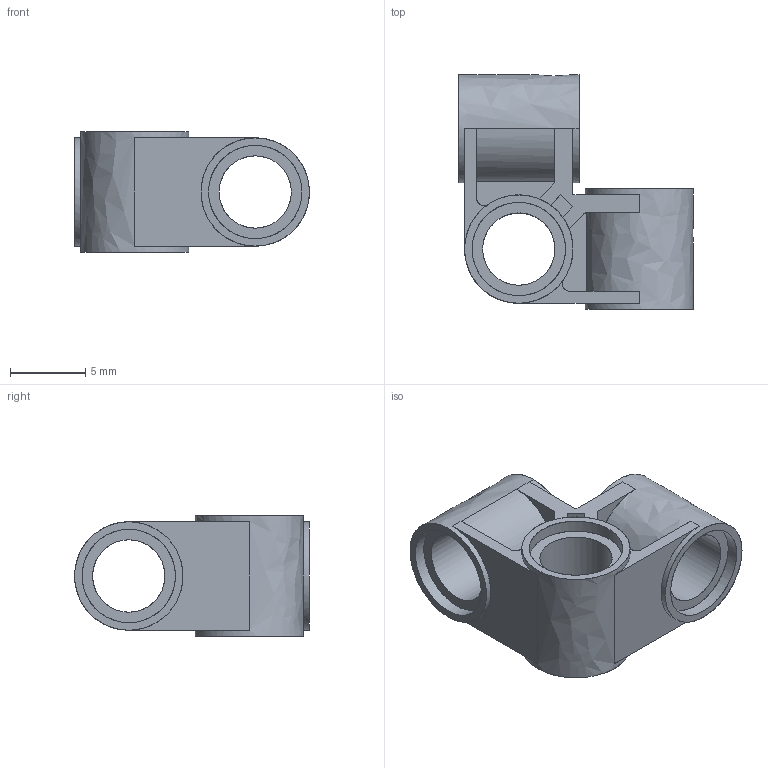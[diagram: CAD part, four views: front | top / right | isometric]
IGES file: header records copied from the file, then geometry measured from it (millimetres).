
Start section: C
Global section: file name: Black_4195022_AVV.iges; native system: By Siemens PLM Incorporated; preprocessor: XPlus GENERIC/IGES 26.1.183; author: Author; organization: Title; date: 20250721.234650; units: millimetre
Bounding box: 15.6 x 15.6 x 8 mm (x, y, z)
Surface area: 1142.3 mm2 (no closed solid volume)
Topology: 0 solids, 0 shells, 83 faces, 466 edges, 466 vertices
Faces by surface type: bspline 83
